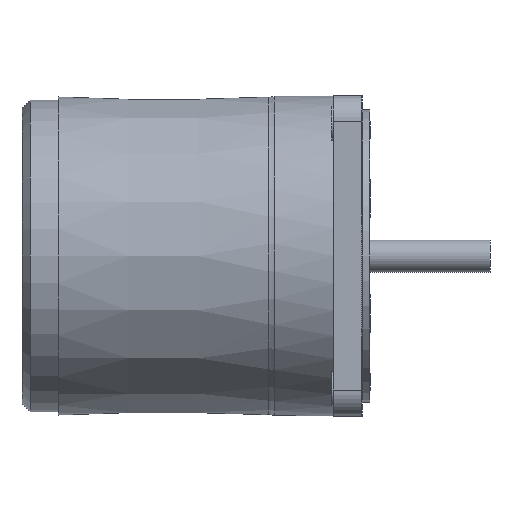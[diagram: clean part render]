
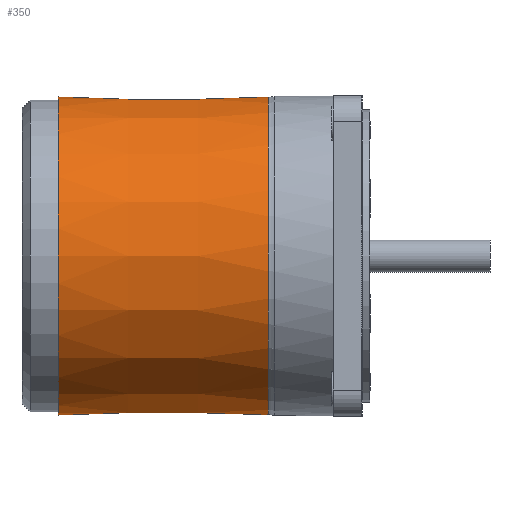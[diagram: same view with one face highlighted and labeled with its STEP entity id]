
A CAD part, front view. The second image highlights one B-rep face of the part: STEP entity #350.
In plain terms, the highlighted conical face has half-angle 0.073 degrees and reference radius 39.784 mm.
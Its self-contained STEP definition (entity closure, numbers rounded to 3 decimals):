
#130=CARTESIAN_POINT('',(9.,39.75,0.0));
#131=VERTEX_POINT('',#130);
#132=CARTESIAN_POINT('',(9.,0.,0.0));
#133=DIRECTION('',(1.0,0.0,0.0));
#134=DIRECTION('',(0.0,1.0,0.0));
#135=AXIS2_PLACEMENT_3D('',#132,#133,#134);
#136=CIRCLE('',#135,39.75);
#137=EDGE_CURVE('',#131,#131,#136,.T.);
#263=CARTESIAN_POINT('',(35.288,0.,0.0));
#264=DIRECTION('',(1.0,0.,0.0));
#265=DIRECTION('',(0.0,1.0,0.0));
#266=AXIS2_PLACEMENT_3D('',#263,#264,#265);
#267=CONICAL_SURFACE('',#266,39.784,0.073);
#268=CARTESIAN_POINT('',(22.001,28.641,-27.587));
#269=VERTEX_POINT('',#268);
#270=CARTESIAN_POINT('',(23.636,28.041,-28.2));
#271=VERTEX_POINT('',#270);
#272=CARTESIAN_POINT('',(22.001,28.641,-27.587));
#273=CARTESIAN_POINT('',(22.002,28.64,-27.589));
#274=CARTESIAN_POINT('',(22.003,28.638,-27.59));
#275=CARTESIAN_POINT('',(22.044,28.581,-27.65));
#276=CARTESIAN_POINT('',(22.115,28.498,-27.736));
#277=CARTESIAN_POINT('',(22.343,28.338,-27.9));
#278=CARTESIAN_POINT('',(22.457,28.278,-27.96));
#279=CARTESIAN_POINT('',(22.724,28.17,-28.07));
#280=CARTESIAN_POINT('',(22.88,28.126,-28.114));
#281=CARTESIAN_POINT('',(23.234,28.058,-28.182));
#282=CARTESIAN_POINT('',(23.435,28.041,-28.2));
#283=CARTESIAN_POINT('',(23.636,28.041,-28.2));
#284=B_SPLINE_CURVE_WITH_KNOTS('',3,(#272,#273,#274,#275,#276,#277,#278,#279,#280,#281,#282,#283),.UNSPECIFIED.,.F.,.U.,(4,2,2,2,2,4),(-0.001,0.0,0.027,0.048,0.073,0.103),.UNSPECIFIED.);
#285=EDGE_CURVE('',#269,#271,#284,.T.);
#286=ORIENTED_EDGE('',*,*,#285,.T.);
#287=CARTESIAN_POINT('',(61.576,28.11,-28.2));
#288=VERTEX_POINT('',#287);
#289=CARTESIAN_POINT('',(23.636,28.041,-28.2));
#290=CARTESIAN_POINT('',(42.583,28.076,-28.2));
#291=CARTESIAN_POINT('',(61.576,28.11,-28.2));
#299=(BOUNDED_CURVE()B_SPLINE_CURVE(2,(#289,#290,#291),.UNSPECIFIED.,.F.,.U.)B_SPLINE_CURVE_WITH_KNOTS((3,3),(0.114,3.908),.UNSPECIFIED.)CURVE()GEOMETRIC_REPRESENTATION_ITEM()RATIONAL_B_SPLINE_CURVE((1.,1.,1.0))REPRESENTATION_ITEM(''));
#300=EDGE_CURVE('',#271,#288,#299,.T.);
#301=ORIENTED_EDGE('',*,*,#300,.T.);
#302=CARTESIAN_POINT('',(61.576,27.541,28.756));
#303=VERTEX_POINT('',#302);
#304=CARTESIAN_POINT('',(61.576,0.,0.0));
#305=DIRECTION('',(1.0,0.0,0.0));
#306=DIRECTION('',(0.0,1.0,0.0));
#307=AXIS2_PLACEMENT_3D('',#304,#305,#306);
#308=CIRCLE('',#307,39.817);
#309=EDGE_CURVE('',#303,#288,#308,.T.);
#310=ORIENTED_EDGE('',*,*,#309,.F.);
#311=CARTESIAN_POINT('',(61.576,27.542,28.756));
#312=VERTEX_POINT('',#311);
#313=CARTESIAN_POINT('',(61.576,0.,0.0));
#314=DIRECTION('',(1.0,0.0,0.0));
#315=DIRECTION('',(0.0,1.0,0.0));
#316=AXIS2_PLACEMENT_3D('',#313,#314,#315);
#317=CIRCLE('',#316,39.817);
#318=EDGE_CURVE('',#312,#303,#317,.T.);
#319=ORIENTED_EDGE('',*,*,#318,.F.);
#320=CARTESIAN_POINT('',(22.5,27.471,28.754));
#321=VERTEX_POINT('',#320);
#322=CARTESIAN_POINT('',(22.5,27.471,28.754));
#323=CARTESIAN_POINT('',(35.525,27.495,28.754));
#324=CARTESIAN_POINT('',(48.55,27.518,28.755));
#325=CARTESIAN_POINT('',(61.576,27.542,28.756));
#326=B_SPLINE_CURVE_WITH_KNOTS('',3,(#322,#323,#324,#325),.UNSPECIFIED.,.F.,.U.,(4,4),(-5.75,-1.842),.UNSPECIFIED.);
#327=EDGE_CURVE('',#321,#312,#326,.T.);
#328=ORIENTED_EDGE('',*,*,#327,.F.);
#329=CARTESIAN_POINT('',(22.001,27.47,28.754));
#330=VERTEX_POINT('',#329);
#331=CARTESIAN_POINT('',(22.5,27.471,28.754));
#332=CARTESIAN_POINT('',(22.334,27.471,28.754));
#333=CARTESIAN_POINT('',(22.167,27.47,28.754));
#334=CARTESIAN_POINT('',(22.001,27.47,28.754));
#335=B_SPLINE_CURVE_WITH_KNOTS('',3,(#331,#332,#333,#334),.UNSPECIFIED.,.F.,.U.,(4,4),(5.75,5.8),.UNSPECIFIED.);
#336=EDGE_CURVE('',#321,#330,#335,.T.);
#337=ORIENTED_EDGE('',*,*,#336,.T.);
#338=CARTESIAN_POINT('',(22.001,0.,0.));
#339=DIRECTION('',(1.,0.,0.));
#340=DIRECTION('',(0.,1.,0.01));
#341=AXIS2_PLACEMENT_3D('',#338,#339,#340);
#342=CIRCLE('',#341,39.767);
#343=EDGE_CURVE('',#269,#330,#342,.T.);
#344=ORIENTED_EDGE('',*,*,#343,.F.);
#345=EDGE_LOOP('',(#286,#301,#310,#319,#328,#337,#344));
#346=FACE_OUTER_BOUND('',#345,.T.);
#347=ORIENTED_EDGE('',*,*,#137,.T.);
#348=EDGE_LOOP('',(#347));
#349=FACE_BOUND('',#348,.T.);
#350=ADVANCED_FACE('',(#346,#349),#267,.T.);
